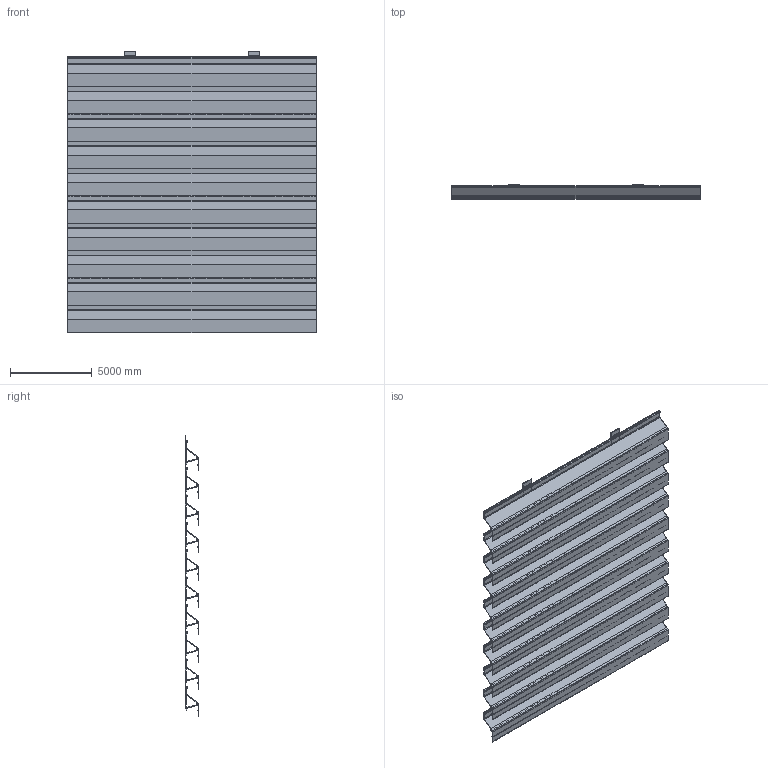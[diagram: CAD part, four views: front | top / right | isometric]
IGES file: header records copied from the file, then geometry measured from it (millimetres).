
Global section: file name: 3D_L_066-06; native system: AutoCAD 2023 - English; preprocessor: Autodesk Translation Framework DWG producer (atf_dwg_producer); organization: unknown; date: 20260202.112051; units: inch
Bounding box: 15240 x 838.2 x 17277.08 mm (x, y, z)
Volume: 16432355717.2 mm3; surface area: 836431898.3 mm2
Topology: 10 solids, 10 shells, 1270 faces, 3910 edges, 2580 vertices
Faces by surface type: bspline 1270
